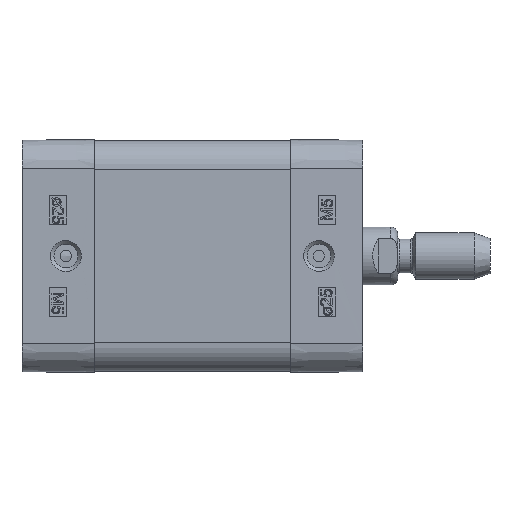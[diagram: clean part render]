
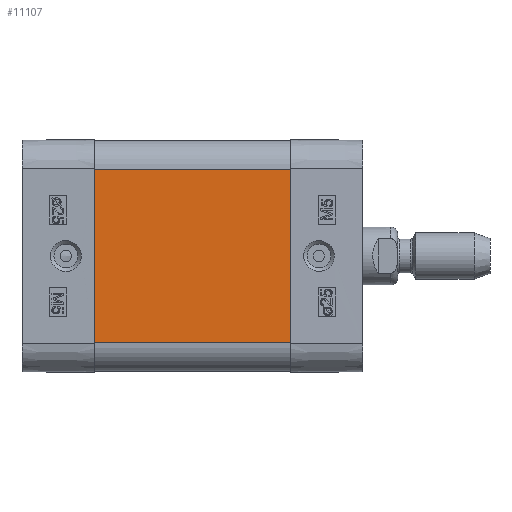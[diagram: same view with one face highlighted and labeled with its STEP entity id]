
A CAD part, left-side view. The second image highlights one B-rep face of the part: STEP entity #11107.
In plain terms, the highlighted planar face has unit normal (-1, 0, 0).
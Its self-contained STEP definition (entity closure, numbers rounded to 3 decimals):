
#8889=CARTESIAN_POINT('',(-20.,-34.0,15.0));
#8890=VERTEX_POINT('',#8889);
#8898=CARTESIAN_POINT('',(-20.,-34.0,-15.));
#8899=VERTEX_POINT('',#8898);
#8900=CARTESIAN_POINT('',(-20.,-34.0,-15.));
#8901=DIRECTION('',(0.0,0.0,1.0));
#8902=VECTOR('',#8901,30.);
#8903=LINE('',#8900,#8902);
#8904=EDGE_CURVE('',#8899,#8890,#8903,.T.);
#10035=CARTESIAN_POINT('',(-20.,0.0,15.0));
#10036=VERTEX_POINT('',#10035);
#10044=CARTESIAN_POINT('',(-20.,0.0,15.0));
#10045=DIRECTION('',(0.0,-1.0,0.0));
#10046=VECTOR('',#10045,34.0);
#10047=LINE('',#10044,#10046);
#10048=EDGE_CURVE('',#10036,#8890,#10047,.T.);
#11072=CARTESIAN_POINT('',(-20.,0.0,-15.));
#11073=VERTEX_POINT('',#11072);
#11074=CARTESIAN_POINT('',(-20.,0.0,-15.));
#11075=DIRECTION('',(0.0,-1.0,0.0));
#11076=VECTOR('',#11075,34.0);
#11077=LINE('',#11074,#11076);
#11078=EDGE_CURVE('',#11073,#8899,#11077,.T.);
#11091=CARTESIAN_POINT('',(-20.,0.0,-15.));
#11092=DIRECTION('',(-1.0,0.0,0.0));
#11093=DIRECTION('',(0.0,0.0,1.0));
#11094=AXIS2_PLACEMENT_3D('',#11091,#11092,#11093);
#11095=PLANE('',#11094);
#11096=ORIENTED_EDGE('',*,*,#8904,.T.);
#11097=ORIENTED_EDGE('',*,*,#10048,.F.);
#11098=CARTESIAN_POINT('',(-20.,0.0,-15.));
#11099=DIRECTION('',(0.0,0.0,1.0));
#11100=VECTOR('',#11099,30.);
#11101=LINE('',#11098,#11100);
#11102=EDGE_CURVE('',#11073,#10036,#11101,.T.);
#11103=ORIENTED_EDGE('',*,*,#11102,.F.);
#11104=ORIENTED_EDGE('',*,*,#11078,.T.);
#11105=EDGE_LOOP('',(#11096,#11097,#11103,#11104));
#11106=FACE_OUTER_BOUND('',#11105,.T.);
#11107=ADVANCED_FACE('',(#11106),#11095,.T.);
